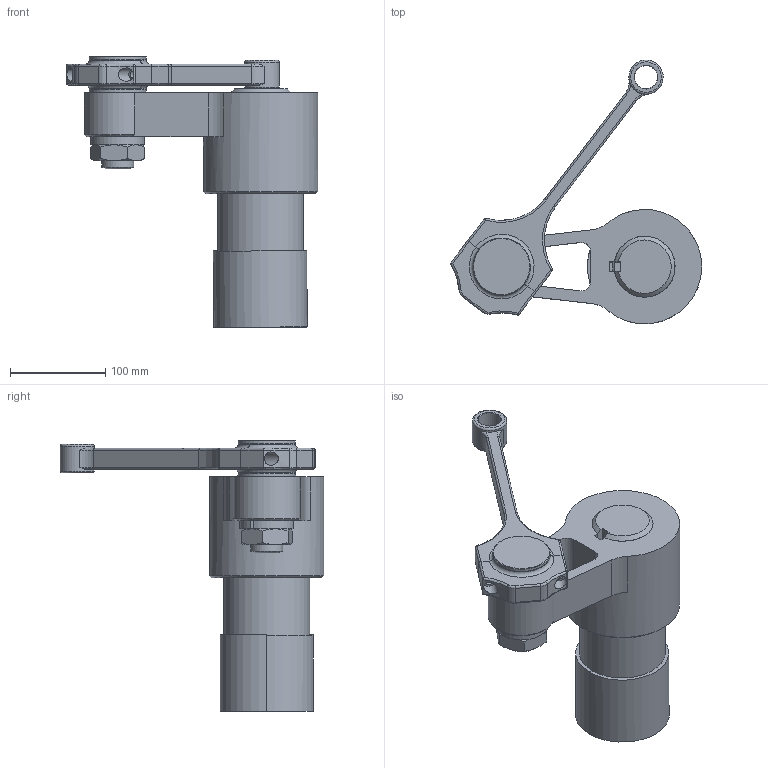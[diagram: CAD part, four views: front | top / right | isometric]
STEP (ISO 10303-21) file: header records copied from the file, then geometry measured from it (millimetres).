
FILE_DESCRIPTION(/* description */ (''),/* implementation_level */ '2;1');
FILE_NAME(/* name */ 'C:\Users\admin\Desktop\inventor\biella_manovella2\step\biella_manovella2.stp',/* time_stamp */ '2021-09-22T08:25:49+02:00',/* author */ ('admin'),/* organization */ (''),/* preprocessor_version */ 'ST-DEVELOPER v18.1',/* originating_system */ 'Autodesk Inventor 2022',/* authorisation */ '');
FILE_SCHEMA (('AUTOMOTIVE_DESIGN { 1 0 10303 214 3 1 1 }'));
Length unit declared in the file: millimetre
Products named in the file (11): Assieme_biella_manovella2; biella; biella2; bronzina_a; manovella2; manovella3; ASME B18.21.1 - 1 3/8, RHSLW; ISO 8675 - M33 x 2; albero2; bronzina_2; bronzina_2_MIR
Assembly tree (11 placements, depth 2):
  Assieme_biella_manovella2
    biella
    biella2
    bronzina_a  x2
    manovella2
    manovella3
    ASME B18.21.1 - 1 3/8, RHSLW
    ISO 8675 - M33 x 2
    albero2
    bronzina_2
    bronzina_2_MIR
Bounding box: 263.95 x 276.83 x 284.38 mm (x, y, z)
Volume: 2790070.7 mm3; surface area: 332453.3 mm2
Topology: 11 solids, 11 shells, 222 faces, 531 edges, 336 vertices
Faces by surface type: plane 93, cylinder 66, torus 30, cone 27, sphere 6
Full cylindrical faces by diameter (mm): 10 x4, 14 x4, 24 x1, 30.835 x1, 34 x1, 36 x1, 45 x1, 60 x2, 64 x1, 90 x1, 120 x1
Entity records: 6717 total; most frequent: CARTESIAN_POINT 1313, DIRECTION 1135, ORIENTED_EDGE 978, EDGE_CURVE 489, AXIS2_PLACEMENT_3D 466, VERTEX_POINT 308, CIRCLE 237, EDGE_LOOP 229
